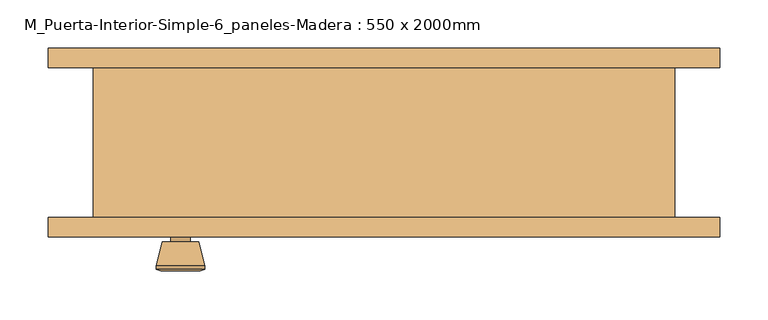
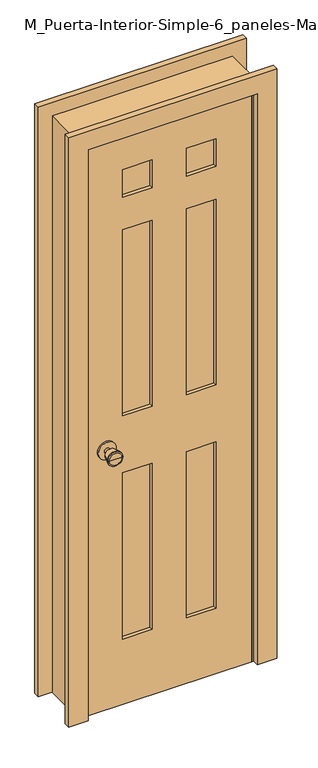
"""IFC4 building model written with IfcOpenShell, lengths in millimetres: door geometry, M_Puerta-Interior-Simple-6_paneles-Madera : 550 x 2000mm."""

from ifc_helpers import new_model, si_unit, point, frame, frame_2d, origin, place, context, project, spatial, polyline, circle_curve, trimmed, segment, composite_curve, outline, extrude, faceted_brep, source, transform, mapped, element, save
from ifc_brep_helpers import plane_surface, cylinder_surface, revolved_surface, advanced_brep


def m_puerta_interior_simple_6_paneles_madera_550_x_2000mm_fa426422(model_context):
    return source(origin(), model_context, "Body", "SolidModel", [
        advanced_brep(
        [(-210.0, -33.325, 914.4), (-220.0, -33.325, 914.4), (-200.0, -33.325, 914.4), (-189.5241324, 15.675, 914.4), (-230.4758676, 15.675, 914.4), (-210.0, 15.675, 914.4), (-185.0, 13.8471319, 914.4), (-235.0, 13.8471319, 914.4), (-185.0, 10.3834537, 914.4), (-235.0, 10.3834537, 914.4), (-191.363764, -14.325, 914.4), (-228.636236, -14.325, 914.4), (-200.0, -14.325, 914.4), (-220.0, -14.325, 914.4)],
        [
            (0, 1),
            (1, 2, circle_curve(frame((-210.0, -33.325, 914.4), z_axis=(0.0, -1.0, 0.0), x_axis=(-1.0, 0.0, 0.0)), 10.0)),
            (2, 0),
            (2, 1, circle_curve(frame((-210.0, -33.325, 914.4), z_axis=(0.0, -1.0, 0.0), x_axis=(-1.0, 0.0, 0.0)), 10.0)),
            (3, 4, circle_curve(frame((-210.0, 15.675, 914.4), z_axis=(0.0, 1.0, 0.0), x_axis=(-1.0, 0.0, 0.0)), 20.4758676)),
            (4, 5),
            (5, 3),
            (4, 3, circle_curve(frame((-210.0, 15.675, 914.4), z_axis=(0.0, 1.0, 0.0), x_axis=(-1.0, 0.0, 0.0)), 20.4758676)),
            (6, 7, circle_curve(frame((-210.0, 13.8471319, 914.4), z_axis=(0.0, 1.0, 0.0), x_axis=(-1.0, 0.0, 0.0)), 25.0)),
            (7, 4),
            (3, 6),
            (7, 6, circle_curve(frame((-210.0, 13.8471319, 914.4), z_axis=(0.0, 1.0, 0.0), x_axis=(-1.0, 0.0, 0.0)), 25.0)),
            (8, 9, circle_curve(frame((-210.0, 10.3834537, 914.4), z_axis=(0.0, 1.0, 0.0), x_axis=(-1.0, 0.0, 0.0)), 25.0)),
            (9, 7),
            (6, 8),
            (9, 8, circle_curve(frame((-210.0, 10.3834537, 914.4), z_axis=(0.0, 1.0, 0.0), x_axis=(-1.0, 0.0, 0.0)), 25.0)),
            (10, 11, circle_curve(frame((-210.0, -14.325, 914.4), z_axis=(0.0, 1.0, 0.0), x_axis=(-1.0, 0.0, 0.0)), 18.636236)),
            (11, 9),
            (8, 10),
            (11, 10, circle_curve(frame((-210.0, -14.325, 914.4), z_axis=(0.0, 1.0, 0.0), x_axis=(-1.0, 0.0, 0.0)), 18.636236)),
            (12, 13, circle_curve(frame((-210.0, -14.325, 914.4), z_axis=(0.0, 1.0, 0.0), x_axis=(-1.0, 0.0, 0.0)), 10.0)),
            (13, 11),
            (10, 12),
            (13, 12, circle_curve(frame((-210.0, -14.325, 914.4), z_axis=(0.0, 1.0, 0.0), x_axis=(-1.0, 0.0, 0.0)), 10.0)),
            (1, 13),
            (12, 2),
        ],
        [
            plane_surface(frame((-210.0, -33.325, 914.4), z_axis=(0.0, -1.0, 0.0), x_axis=(-1.0, 0.0, 0.0))),
            plane_surface(frame((-210.0, 15.675, 914.4), z_axis=(0.0, 1.0, 0.0), x_axis=(-1.0, 0.0, 0.0))),
            revolved_surface(polyline([(-230.4758676, 15.675, 914.4), (-235.0, 13.8471319, 914.4)]), (-210.0, -33.325, 914.4), (0.0, -1.0, 0.0)),
            cylinder_surface(frame((-210.0, -33.325, 914.4), z_axis=(0.0, -1.0, 0.0), x_axis=(-1.0, 0.0, 0.0)), 25.0),
            revolved_surface(polyline([(-235.0, 10.3834537, 914.4), (-228.636236, -14.325, 914.4)]), (-210.0, -33.325, 914.4), (0.0, -1.0, 0.0)),
            plane_surface(frame((-210.0, -14.325, 914.4), z_axis=(0.0, -1.0, 0.0), x_axis=(-1.0, 0.0, 0.0))),
            cylinder_surface(frame((-210.0, -33.325, 914.4), z_axis=(0.0, -1.0, 0.0), x_axis=(-1.0, 0.0, 0.0)), 10.0),
        ],
        [
            (0, [[1, 2, 3]]),
            (0, [[-3, 4, -1]]),
            (1, [[5, 6, 7]]),
            (1, [[8, -7, -6]]),
            (2, [[9, 10, -5, 11]]),
            (2, [[12, -11, -8, -10]]),
            (3, [[13, 14, -9, 15]]),
            (3, [[16, -15, -12, -14]]),
            (4, [[17, 18, -13, 19]]),
            (4, [[20, -19, -16, -18]]),
            (5, [[21, 22, -17, 23]]),
            (5, [[24, -23, -20, -22]]),
            (6, [[-2, 25, -21, 26]]),
            (6, [[-4, -26, -24, -25]]),
        ],
    ),
        extrude(outline(composite_curve([segment(trimmed(circle_curve(frame_2d((914.4, -210.0)), 30.0), [point((914.4, -240.0))], [point((914.4, -180.0))], False, "CARTESIAN"), True, "CONTINUOUS"), segment(trimmed(circle_curve(frame_2d((914.4, -210.0)), 30.0), [point((914.4, -180.0))], [point((914.4, -240.0))], False, "CARTESIAN"), True, "CONTINUOUS")], self_intersect=False)), frame((0.0, -39.325, 0.0), z_axis=(0.0, 1.0, 0.0), x_axis=(0.0, 0.0, 1.0)), (0.0, 0.0, 1.0), 6.0),
        advanced_brep(
        [(-210.0, -80.325, 914.4), (-200.0, -80.325, 914.4), (-220.0, -80.325, 914.4), (-189.5241324, -129.325, 914.4), (-210.0, -129.325, 914.4), (-230.4758676, -129.325, 914.4), (-185.0, -127.4971319, 914.4), (-235.0, -127.4971319, 914.4), (-185.0, -124.0334537, 914.4), (-235.0, -124.0334537, 914.4), (-191.363764, -99.325, 914.4), (-228.636236, -99.325, 914.4), (-200.0, -99.325, 914.4), (-220.0, -99.325, 914.4)],
        [
            (0, 1),
            (1, 2, circle_curve(frame((-210.0, -80.325, 914.4), z_axis=(0.0, 1.0, 0.0), x_axis=(-1.0, 0.0, 0.0)), 10.0)),
            (2, 0),
            (2, 1, circle_curve(frame((-210.0, -80.325, 914.4), z_axis=(0.0, 1.0, 0.0), x_axis=(-1.0, 0.0, 0.0)), 10.0)),
            (3, 4),
            (4, 5),
            (5, 3, circle_curve(frame((-210.0, -129.325, 914.4), z_axis=(0.0, -1.0, 0.0), x_axis=(-1.0, 0.0, 0.0)), 20.4758676)),
            (3, 5, circle_curve(frame((-210.0, -129.325, 914.4), z_axis=(0.0, -1.0, 0.0), x_axis=(-1.0, 0.0, 0.0)), 20.4758676)),
            (6, 3),
            (5, 7),
            (7, 6, circle_curve(frame((-210.0, -127.4971319, 914.4), z_axis=(0.0, -1.0, 0.0), x_axis=(-1.0, 0.0, 0.0)), 25.0)),
            (6, 7, circle_curve(frame((-210.0, -127.4971319, 914.4), z_axis=(0.0, -1.0, 0.0), x_axis=(-1.0, 0.0, 0.0)), 25.0)),
            (8, 6),
            (7, 9),
            (9, 8, circle_curve(frame((-210.0, -124.0334537, 914.4), z_axis=(0.0, -1.0, 0.0), x_axis=(-1.0, 0.0, 0.0)), 25.0)),
            (8, 9, circle_curve(frame((-210.0, -124.0334537, 914.4), z_axis=(0.0, -1.0, 0.0), x_axis=(-1.0, 0.0, 0.0)), 25.0)),
            (10, 8),
            (9, 11),
            (11, 10, circle_curve(frame((-210.0, -99.325, 914.4), z_axis=(0.0, -1.0, 0.0), x_axis=(-1.0, 0.0, 0.0)), 18.636236)),
            (10, 11, circle_curve(frame((-210.0, -99.325, 914.4), z_axis=(0.0, -1.0, 0.0), x_axis=(-1.0, 0.0, 0.0)), 18.636236)),
            (12, 10),
            (11, 13),
            (13, 12, circle_curve(frame((-210.0, -99.325, 914.4), z_axis=(0.0, -1.0, 0.0), x_axis=(-1.0, 0.0, 0.0)), 10.0)),
            (12, 13, circle_curve(frame((-210.0, -99.325, 914.4), z_axis=(0.0, -1.0, 0.0), x_axis=(-1.0, 0.0, 0.0)), 10.0)),
            (1, 12),
            (13, 2),
        ],
        [
            plane_surface(frame((-210.0, -80.325, 914.4), z_axis=(0.0, 1.0, 0.0), x_axis=(-1.0, 0.0, 0.0))),
            plane_surface(frame((-210.0, -129.325, 914.4), z_axis=(0.0, -1.0, 0.0), x_axis=(-1.0, 0.0, 0.0))),
            revolved_surface(polyline([(-230.4758676, -129.325, 914.4), (-235.0, -127.4971319, 914.4)]), (-210.0, -80.325, 914.4), (0.0, 1.0, 0.0)),
            cylinder_surface(frame((-210.0, -80.325, 914.4), z_axis=(0.0, 1.0, 0.0), x_axis=(-1.0, 0.0, 0.0)), 25.0),
            revolved_surface(polyline([(-235.0, -124.0334537, 914.4), (-228.636236, -99.325, 914.4)]), (-210.0, -80.325, 914.4), (0.0, 1.0, 0.0)),
            plane_surface(frame((-210.0, -99.325, 914.4), z_axis=(0.0, 1.0, 0.0), x_axis=(-1.0, 0.0, 0.0))),
            cylinder_surface(frame((-210.0, -80.325, 914.4), z_axis=(0.0, 1.0, 0.0), x_axis=(-1.0, 0.0, 0.0)), 10.0),
        ],
        [
            (0, [[1, 2, 3]]),
            (0, [[-3, 4, -1]]),
            (1, [[5, 6, 7]]),
            (1, [[-6, -5, 8]]),
            (2, [[9, -7, 10, 11]]),
            (2, [[-10, -8, -9, 12]]),
            (3, [[13, -11, 14, 15]]),
            (3, [[-14, -12, -13, 16]]),
            (4, [[17, -15, 18, 19]]),
            (4, [[-18, -16, -17, 20]]),
            (5, [[21, -19, 22, 23]]),
            (5, [[-22, -20, -21, 24]]),
            (6, [[25, -23, 26, -2]]),
            (6, [[-26, -24, -25, -4]]),
        ],
    ),
        extrude(outline(composite_curve([segment(trimmed(circle_curve(frame_2d((914.4, -210.0)), 30.0), [point((914.4, -240.0))], [point((914.4, -180.0))], False, "CARTESIAN"), True, "CONTINUOUS"), segment(trimmed(circle_curve(frame_2d((914.4, -210.0)), 30.0), [point((914.4, -180.0))], [point((914.4, -240.0))], False, "CARTESIAN"), True, "CONTINUOUS")], self_intersect=False)), frame((0.0, -80.325, 0.0), z_axis=(0.0, 1.0, 0.0), x_axis=(0.0, 0.0, 1.0)), (0.0, 0.0, 1.0), 6.0),
        faceted_brep([(300.0, -74.325, 0.0), (275.0, -74.325, 0.0), (275.0, -39.325, 0.0), (262.3, -39.325, 0.0), (262.3, -4.4, 0.0), (275.0, -4.4, 0.0), (275.0, 80.675, 0.0), (300.0, 80.675, 0.0), (300.0, 80.675, 2025.0), (300.0, -74.325, 2025.0), (275.0, 80.675, 2000.0), (-275.0, 80.675, 2000.0), (-275.0, 80.675, 0.0), (-300.0, 80.675, 0.0), (-300.0, 80.675, 2025.0), (275.0, -4.4, 2000.0), (262.3, -4.4, 1987.3), (-262.3, -4.4, 1987.3), (-262.3, -4.4, 0.0), (-275.0, -4.4, 0.0), (-275.0, -4.4, 2000.0), (262.3, -39.325, 1987.3), (275.0, -39.325, 2000.0), (-275.0, -39.325, 2000.0), (-275.0, -39.325, 0.0), (-262.3, -39.325, 0.0), (-262.3, -39.325, 1987.3), (275.0, -74.325, 2000.0), (-300.0, -74.325, 2025.0), (-300.0, -74.325, 0.0), (-275.0, -74.325, 0.0), (-275.0, -74.325, 2000.0)], [[[0, 1, 2, 3, 4, 5, 6, 7]], [[7, 8, 9, 0]], [[6, 10, 11, 12, 13, 14, 8, 7]], [[5, 15, 10, 6]], [[4, 16, 17, 18, 19, 20, 15, 5]], [[3, 21, 16, 4]], [[2, 22, 23, 24, 25, 26, 21, 3]], [[1, 27, 22, 2]], [[0, 9, 28, 29, 30, 31, 27, 1]], [[8, 14, 28, 9]], [[15, 20, 11, 10]], [[21, 26, 17, 16]], [[27, 31, 23, 22]], [[29, 13, 12, 19, 18, 25, 24, 30]], [[14, 13, 29, 28]], [[20, 19, 12, 11]], [[26, 25, 18, 17]], [[31, 30, 24, 23]]]),
        extrude(outline(polyline([(2000.0, -275.0), (0.0, -275.0), (0.0, 275.0), (2000.0, 275.0), (2000.0, -275.0)]), holes=[polyline([(1880.0, 57.5), (1880.0, 155.0), (1782.5, 155.0), (1782.5, 57.5), (1880.0, 57.5)]), polyline([(1667.5, 155.0), (1014.4, 155.0), (1014.4, 57.5), (1667.5, 57.5), (1667.5, 155.0)]), polyline([(1014.4, -57.5), (1014.4, -155.0), (1667.5, -155.0), (1667.5, -57.5), (1014.4, -57.5)]), polyline([(1782.5, -155.0), (1880.0, -155.0), (1880.0, -57.5), (1782.5, -57.5), (1782.5, -155.0)]), polyline([(814.4, 57.5), (814.4, 155.0), (230.0, 155.0), (230.0, 57.5), (814.4, 57.5)]), polyline([(230.0, -57.5), (230.0, -155.0), (814.4, -155.0), (814.4, -57.5), (230.0, -57.5)])]), frame((0.0, -74.325, 0.0), z_axis=(0.0, 1.0, 0.0), x_axis=(0.0, 0.0, 1.0)), (0.0, 0.0, 1.0), 35.0),
        extrude(outline(polyline([(155.0, -50.9916667), (155.0, -62.6583333), (57.5, -62.6583333), (57.5, -50.9916667), (155.0, -50.9916667)])), frame((0.0, 0.0, 1782.5), z_axis=(0.0, 0.0, 1.0), x_axis=(1.0, 0.0, 0.0)), (0.0, 0.0, 1.0), 97.5),
        extrude(outline(polyline([(155.0, -50.9916667), (155.0, -62.6583333), (57.5, -62.6583333), (57.5, -50.9916667), (155.0, -50.9916667)])), frame((0.0, 0.0, 1014.4), z_axis=(0.0, 0.0, 1.0), x_axis=(1.0, 0.0, 0.0)), (0.0, 0.0, 1.0), 653.1),
        extrude(outline(polyline([(-57.5, -50.9916667), (-57.5, -62.6583333), (-155.0, -62.6583333), (-155.0, -50.9916667), (-57.5, -50.9916667)])), frame((0.0, 0.0, 1014.4), z_axis=(0.0, 0.0, 1.0), x_axis=(1.0, 0.0, 0.0)), (0.0, 0.0, 1.0), 653.1),
        extrude(outline(polyline([(-57.5, -50.9916667), (-57.5, -62.6583333), (-155.0, -62.6583333), (-155.0, -50.9916667), (-57.5, -50.9916667)])), frame((0.0, 0.0, 1782.5), z_axis=(0.0, 0.0, 1.0), x_axis=(1.0, 0.0, 0.0)), (0.0, 0.0, 1.0), 97.5),
        extrude(outline(polyline([(155.0, -50.9916667), (155.0, -62.6583333), (57.5, -62.6583333), (57.5, -50.9916667), (155.0, -50.9916667)])), frame((0.0, 0.0, 230.0), z_axis=(0.0, 0.0, 1.0), x_axis=(1.0, 0.0, 0.0)), (0.0, 0.0, 1.0), 584.4),
        extrude(outline(polyline([(-57.5, -50.9916667), (-57.5, -62.6583333), (-155.0, -62.6583333), (-155.0, -50.9916667), (-57.5, -50.9916667)])), frame((0.0, 0.0, 230.0), z_axis=(0.0, 0.0, 1.0), x_axis=(1.0, 0.0, 0.0)), (0.0, 0.0, 1.0), 584.4),
        extrude(outline(polyline([(0.0, 346.35), (2071.35, 346.35), (2071.35, -346.35), (0.0, -346.35), (0.0, -281.35), (2006.35, -281.35), (2006.35, 281.35), (0.0, 281.35), (0.0, 346.35)])), frame((0.0, -94.325, 0.0), z_axis=(0.0, 1.0, 0.0), x_axis=(0.0, 0.0, 1.0)), (0.0, 0.0, 1.0), 20.0),
        extrude(outline(polyline([(0.0, 346.35), (2071.35, 346.35), (2071.35, -346.35), (0.0, -346.35), (0.0, -281.35), (2006.35, -281.35), (2006.35, 281.35), (0.0, 281.35), (0.0, 346.35)])), frame((0.0, 80.675, 0.0), z_axis=(0.0, 1.0, 0.0), x_axis=(0.0, 0.0, 1.0)), (0.0, 0.0, 1.0), 20.0),
    ])


if __name__ == "__main__":
    model = new_model("IFC4")
    model_context = context("Model", 3, world=origin())
    ifc_project = project(units=[si_unit("LENGTHUNIT", "METRE", prefix="MILLI")], contexts=[model_context])
    site = spatial("IfcSite", under=ifc_project)
    building = spatial("IfcBuilding", under=site)
    placement = place(None, origin())
    m_puerta_interior_simple_6_paneles_madera_550_x_2000mm_shape = m_puerta_interior_simple_6_paneles_madera_550_x_2000mm_fa426422(model_context)
    element("IfcDoor", 1, ObjectType="M_Puerta-Interior-Simple-6_paneles-Madera : 550 x 2000mm", at=placement, inside=building, context=model_context, shape_type="MappedRepresentation", body=[
        mapped(m_puerta_interior_simple_6_paneles_madera_550_x_2000mm_shape, transform((0.0, 0.0, 0.0), x_axis=(1.0, 0.0, 0.0), y_axis=(0.0, 1.0, 0.0), z_axis=(0.0, 0.0, 1.0))),
    ])
    save(model, "model.ifc")
